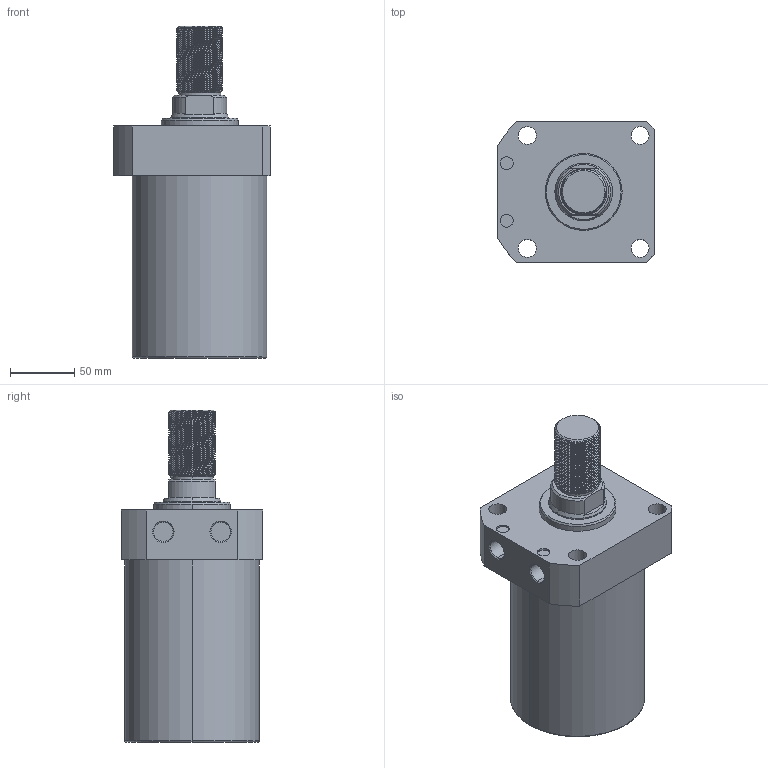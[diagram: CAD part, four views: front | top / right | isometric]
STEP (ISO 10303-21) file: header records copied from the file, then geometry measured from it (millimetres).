
FILE_DESCRIPTION (( 'STEP AP214' ), '1' );
FILE_NAME ('CLLR-105CT-095.STEP', '2020-01-10T03:08:09', ( 'Windows' ), ( 'Microsoft' ), 'SwSTEP 2.0', 'SolidWorks 2015', '' );
FILE_SCHEMA (( 'AUTOMOTIVE_DESIGN' ));
Length unit declared in the file: millimetre
Products named in the file (1): CLLR-105CT-095
Bounding box: 122 x 110 x 259 mm (x, y, z)
Volume: 1802146.4 mm3; surface area: 111033.5 mm2
Topology: 1 solids, 1 shells, 136 faces, 364 edges, 238 vertices
Faces by surface type: cylinder 96, plane 21, cone 15, torus 2, bspline 2
Entity records: 8223 total; most frequent: CARTESIAN_POINT 5092, ORIENTED_EDGE 728, DIRECTION 565, EDGE_CURVE 364, VERTEX_POINT 238, AXIS2_PLACEMENT_3D 215, EDGE_LOOP 152, FACE_OUTER_BOUND 136
